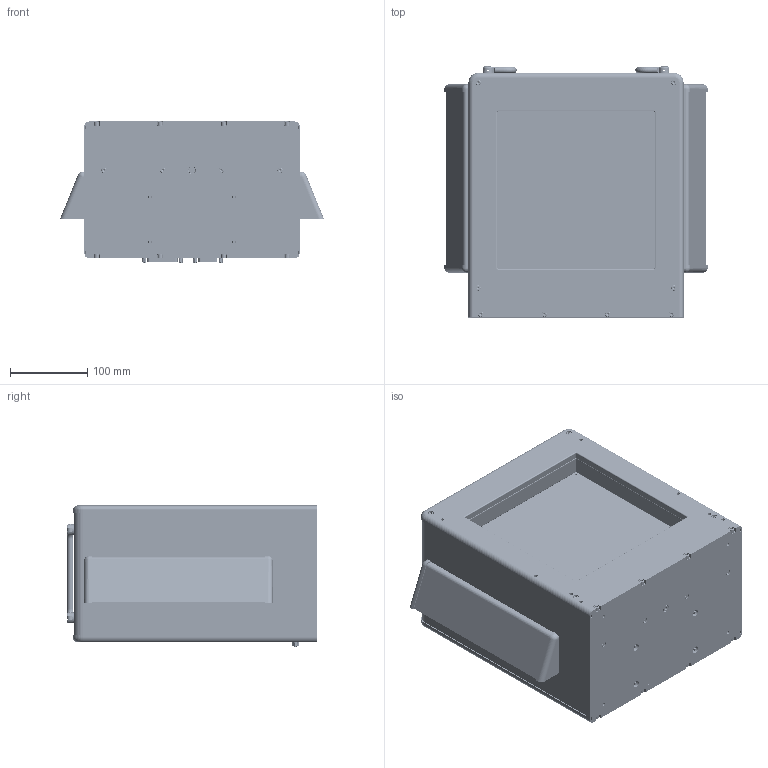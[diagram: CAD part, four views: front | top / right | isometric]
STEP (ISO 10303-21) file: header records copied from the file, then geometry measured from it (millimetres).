
FILE_DESCRIPTION (( 'STEP AP203' ), '1' );
FILE_NAME ('319-000-731_A.STEP', '2014-09-16T19:10:31', ( '' ), ( '' ), 'SwSTEP 2.0', 'SolidWorks 2013', '' );
FILE_SCHEMA (( 'CONFIG_CONTROL_DESIGN' ));
Products named in the file (1): 319-000-731_A
Bounding box: 342.29 x 325.76 x 183.21 mm (x, y, z)
Volume: 2569278.4 mm3; surface area: 1118427.4 mm2
Topology: 94 solids, 97 shells, 7818 faces, 20621 edges, 13350 vertices
Faces by surface type: plane 3394, cylinder 3359, cone 488, bspline 475, torus 86, sphere 16
Entity records: 268082 total; most frequent: CARTESIAN_POINT 69700, ORIENTED_EDGE 41078, DIRECTION 40432, EDGE_CURVE 20539, AXIS2_PLACEMENT_3D 14435, VERTEX_POINT 13348, LINE 11562, VECTOR 11562
